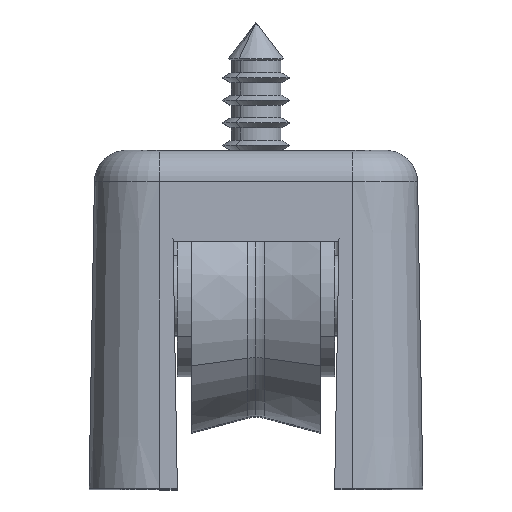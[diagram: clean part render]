
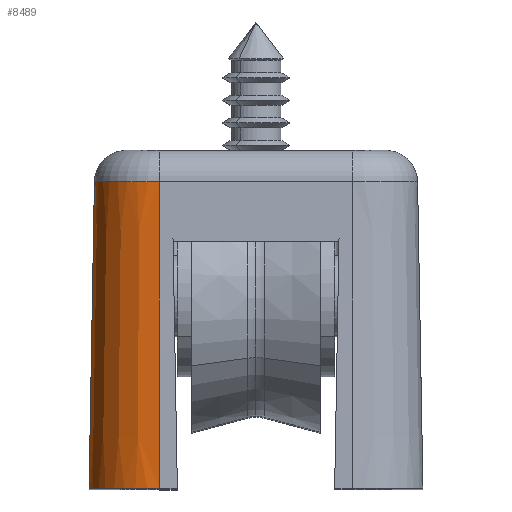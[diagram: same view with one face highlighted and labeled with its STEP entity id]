
A CAD part, top view. The second image highlights one B-rep face of the part: STEP entity #8489.
In plain terms, the highlighted conical face has half-angle 1 degrees and reference radius 4 mm.
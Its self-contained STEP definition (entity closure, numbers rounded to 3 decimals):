
#227 = EDGE_CURVE ( 'NONE', #7331, #2487, #3638, .T. ) ;
#263 = CARTESIAN_POINT ( 'NONE',  ( -25.5, 10.034, 9.035 ) ) ;
#382 = ORIENTED_EDGE ( 'NONE', *, *, #3461, .F. ) ;
#1407 = EDGE_CURVE ( 'NONE', #7331, #4042, #5524, .T. ) ;
#1824 = CARTESIAN_POINT ( 'NONE',  ( -29.534, 6., 9.035 ) ) ;
#1830 = VECTOR ( 'NONE', #9364, 1000. ) ;
#2367 = EDGE_LOOP ( 'NONE', ( #382, #4555, #2610, #8103 ) ) ;
#2487 = VERTEX_POINT ( 'NONE', #263 ) ;
#2531 = CARTESIAN_POINT ( 'NONE',  ( -25.5, 10.367, -10. ) ) ;
#2569 = CARTESIAN_POINT ( 'NONE',  ( -29.867, 6., -10. ) ) ;
#2610 = ORIENTED_EDGE ( 'NONE', *, *, #227, .T. ) ;
#2619 = DIRECTION ( 'NONE',  ( -1., 0., 0. ) ) ;
#3461 = EDGE_CURVE ( 'NONE', #4042, #7316, #10170, .T. ) ;
#3490 = DIRECTION ( 'NONE',  ( -0.017, 0., -1. ) ) ;
#3638 = CIRCLE ( 'NONE', #9523, 4.034 ) ;
#4042 = VERTEX_POINT ( 'NONE', #2569 ) ;
#4057 = DIRECTION ( 'NONE',  ( -1., 0., 0. ) ) ;
#4555 = ORIENTED_EDGE ( 'NONE', *, *, #1407, .F. ) ;
#4751 = DIRECTION ( 'NONE',  ( 0., 0., -1. ) ) ;
#4959 = FACE_OUTER_BOUND ( 'NONE', #2367, .T. ) ;
#5524 = LINE ( 'NONE', #10434, #8868 ) ;
#5811 = CARTESIAN_POINT ( 'NONE',  ( -25.5, 10., 11. ) ) ;
#6764 = CARTESIAN_POINT ( 'NONE',  ( -25.5, 6., 9.035 ) ) ;
#7040 = LINE ( 'NONE', #5811, #1830 ) ;
#7316 = VERTEX_POINT ( 'NONE', #2531 ) ;
#7331 = VERTEX_POINT ( 'NONE', #1824 ) ;
#7820 = EDGE_CURVE ( 'NONE', #7316, #2487, #7040, .T. ) ;
#8103 = ORIENTED_EDGE ( 'NONE', *, *, #7820, .F. ) ;
#8449 = DIRECTION ( 'NONE',  ( 0., 0., -1. ) ) ;
#8489 = ADVANCED_FACE ( 'NONE', ( #4959 ), #8835, .T. ) ;
#8619 = CARTESIAN_POINT ( 'NONE',  ( -25.5, 6., 11. ) ) ;
#8663 = DIRECTION ( 'NONE',  ( 0., 0., -1. ) ) ;
#8835 = CONICAL_SURFACE ( 'NONE', #10149, 4., 0.017 ) ;
#8868 = VECTOR ( 'NONE', #3490, 1000. ) ;
#9197 = AXIS2_PLACEMENT_3D ( 'NONE', #9887, #4751, #9958 ) ;
#9364 = DIRECTION ( 'NONE',  ( 0., -0.017, 1. ) ) ;
#9523 = AXIS2_PLACEMENT_3D ( 'NONE', #6764, #8449, #4057 ) ;
#9887 = CARTESIAN_POINT ( 'NONE',  ( -25.5, 6., -10. ) ) ;
#9958 = DIRECTION ( 'NONE',  ( 1., 0., 0. ) ) ;
#10149 = AXIS2_PLACEMENT_3D ( 'NONE', #8619, #8663, #2619 ) ;
#10170 = CIRCLE ( 'NONE', #9197, 4.367 ) ;
#10434 = CARTESIAN_POINT ( 'NONE',  ( -29.5, 6., 11. ) ) ;
